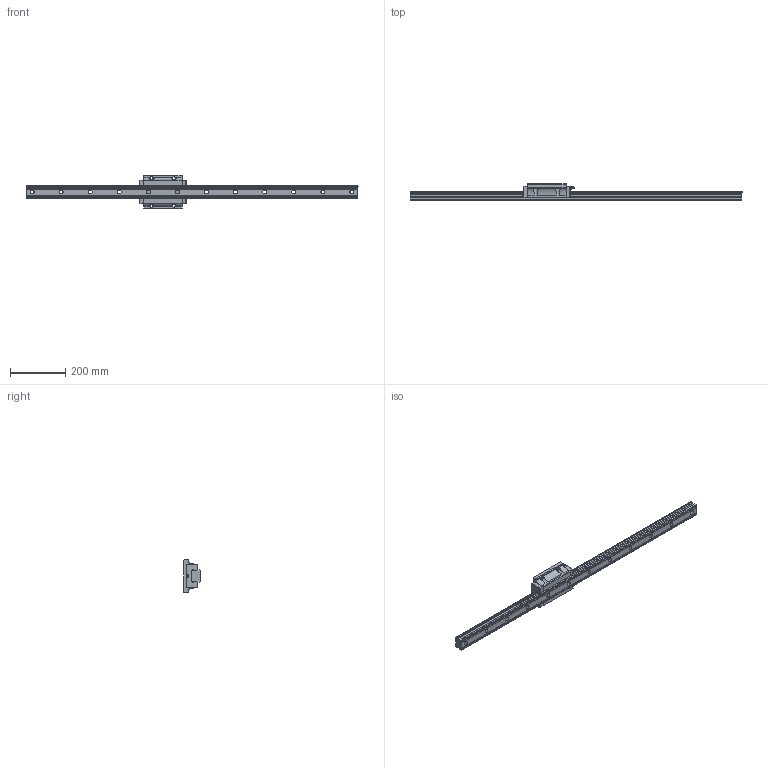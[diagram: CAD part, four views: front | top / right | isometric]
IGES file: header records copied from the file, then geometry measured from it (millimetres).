
Start section: SolidWorks IGES file using analytic representation for surfaces
Global section: file name: C:\Users\tsuch\OneDrive\デスクトップ\EG45関連修正(3D)\EGH45FL.IGS; native system: SolidWorks 2019; preprocessor: SolidWorks 2019; author: tsuch; date: 210706.174045; units: millimetre
Bounding box: 1200 x 60 x 120 mm (x, y, z)
Surface area: 298841.8 mm2 (no closed solid volume)
Topology: 0 solids, 0 shells, 397 faces, 5355 edges, 5355 vertices
Faces by surface type: bspline 209, revolution 188
